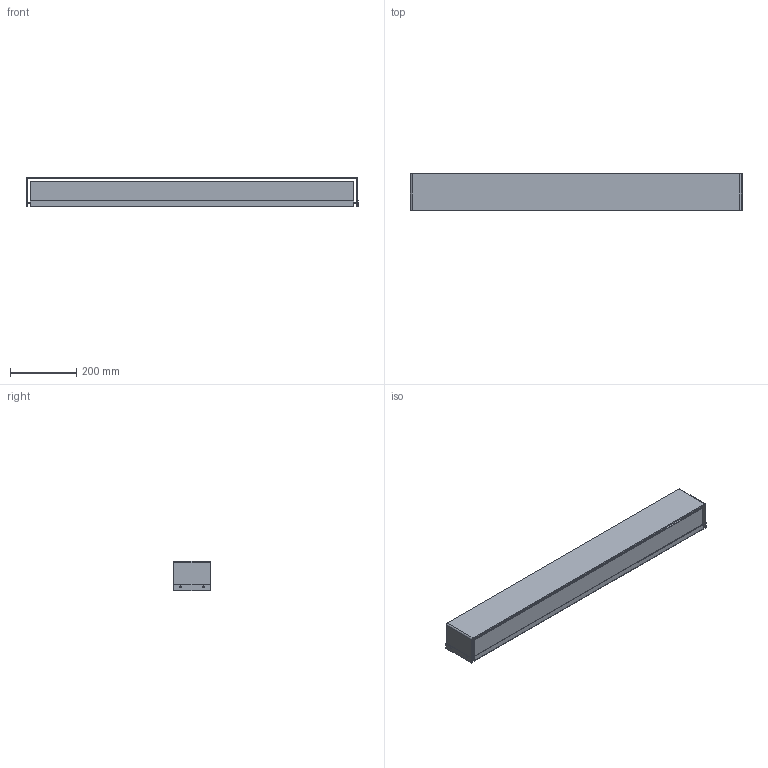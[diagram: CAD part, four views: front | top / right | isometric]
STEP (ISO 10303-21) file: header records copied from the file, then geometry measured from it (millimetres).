
FILE_DESCRIPTION (( 'STEP AP203' ), '1' );
FILE_NAME ('BLOCK_P100_STEP.STEP', '2016-01-12T10:51:14', ( 'admin' ), ( '' ), 'SwSTEP 2.0', 'SolidWorks 2015', '' );
FILE_SCHEMA (( 'CONFIG_CONTROL_DESIGN' ));
Length unit declared in the file: millimetre
Products named in the file (2): BLOCK_P100_STEP
Bounding box: 1000 x 110 x 90 mm (x, y, z)
Volume: 1165769.4 mm3; surface area: 863561.6 mm2
Topology: 6 solids, 6 shells, 195 faces, 515 edges, 336 vertices
Faces by surface type: plane 92, cylinder 83, cone 20
Entity records: 6326 total; most frequent: DIRECTION 1109, CARTESIAN_POINT 1048, ORIENTED_EDGE 1030, EDGE_CURVE 515, AXIS2_PLACEMENT_3D 397, VERTEX_POINT 336, LINE 315, VECTOR 315
